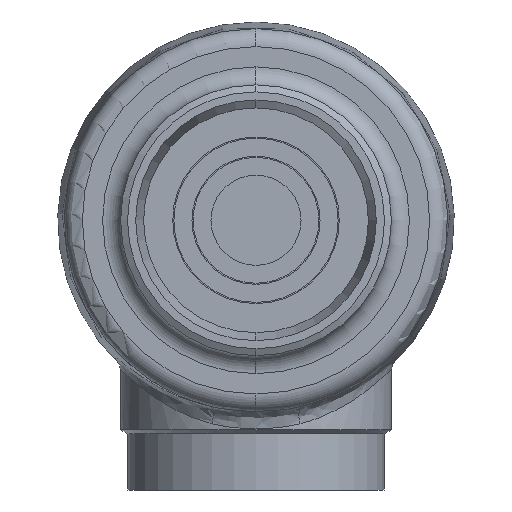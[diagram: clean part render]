
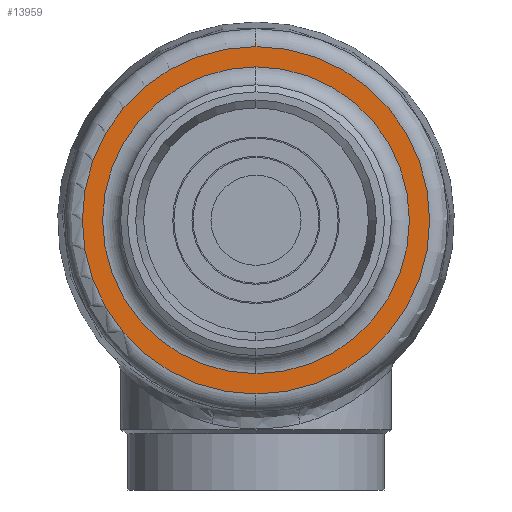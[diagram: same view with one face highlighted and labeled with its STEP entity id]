
A CAD part, front view. The second image highlights one B-rep face of the part: STEP entity #13959.
In plain terms, the highlighted planar face has unit normal (0, -1, 0).
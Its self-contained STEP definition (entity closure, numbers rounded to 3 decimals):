
#16643 = EDGE_LOOP ( 'NONE', ( #3357, #4534 ) ) ;
#17709 = VERTEX_POINT ( 'NONE', #6746 ) ;
#1481 = ORIENTED_EDGE ( 'NONE', *, *, #4165, .T. ) ;
#2569 = VERTEX_POINT ( 'NONE', #13431 ) ;
#3357 = ORIENTED_EDGE ( 'NONE', *, *, #10344, .T. ) ;
#4165 = EDGE_CURVE ( 'NONE', #10117, #2569, #6292, .T. ) ;
#4534 = ORIENTED_EDGE ( 'NONE', *, *, #5207, .T. ) ;
#5207 = EDGE_CURVE ( 'NONE', #17709, #10143, #7381, .T. ) ;
#6292 = CIRCLE ( 'NONE', #6293, 77.274 ) ;
#6293 = AXIS2_PLACEMENT_3D ( 'NONE', #6294, #6295, #6296 ) ;
#6294 = CARTESIAN_POINT ( 'NONE',  ( 0., -145., 0. ) ) ;
#6295 = DIRECTION ( 'NONE',  ( 0., -1., 0. ) ) ;
#6296 = DIRECTION ( 'NONE',  ( 0., 0., -1. ) ) ;
#6746 = CARTESIAN_POINT ( 'NONE',  ( 0., -145., 68.25 ) ) ;
#7079 = ORIENTED_EDGE ( 'NONE', *, *, #16249, .T. ) ;
#7381 = CIRCLE ( 'NONE', #7382, 68.25 ) ;
#7382 = AXIS2_PLACEMENT_3D ( 'NONE', #7384, #7385, #7386 ) ;
#7384 = CARTESIAN_POINT ( 'NONE',  ( 0., -145., 0. ) ) ;
#7385 = DIRECTION ( 'NONE',  ( 0., 1., 0. ) ) ;
#7386 = DIRECTION ( 'NONE',  ( 0., 0., -1. ) ) ;
#7423 = FACE_BOUND ( 'NONE', #16643, .T. ) ;
#7424 = FACE_OUTER_BOUND ( 'NONE', #16098, .T. ) ;
#7425 = PLANE ( 'NONE',  #7426 ) ;
#7426 = AXIS2_PLACEMENT_3D ( 'NONE', #7427, #7428, #7429 ) ;
#7427 = CARTESIAN_POINT ( 'NONE',  ( 0., -145., 0. ) ) ;
#7428 = DIRECTION ( 'NONE',  ( 0., -1., 0. ) ) ;
#7429 = DIRECTION ( 'NONE',  ( 0., 0., -1. ) ) ;
#10117 = VERTEX_POINT ( 'NONE', #12569 ) ;
#10143 = VERTEX_POINT ( 'NONE', #12707 ) ;
#10344 = EDGE_CURVE ( 'NONE', #10143, #17709, #12779, .T. ) ;
#12569 = CARTESIAN_POINT ( 'NONE',  ( 0., -145., 77.274 ) ) ;
#12707 = CARTESIAN_POINT ( 'NONE',  ( 0., -145., -68.25 ) ) ;
#12779 = CIRCLE ( 'NONE', #12780, 68.25 ) ;
#12780 = AXIS2_PLACEMENT_3D ( 'NONE', #12781, #12782, #12783 ) ;
#12781 = CARTESIAN_POINT ( 'NONE',  ( 0., -145., 0. ) ) ;
#12782 = DIRECTION ( 'NONE',  ( 0., 1., 0. ) ) ;
#12783 = DIRECTION ( 'NONE',  ( 0., 0., -1. ) ) ;
#13431 = CARTESIAN_POINT ( 'NONE',  ( 0., -145., -77.274 ) ) ;
#13959 = ADVANCED_FACE ( 'NONE', ( #7423, #7424 ), #7425, .T. ) ;
#15743 = CIRCLE ( 'NONE', #15744, 77.274 ) ;
#15744 = AXIS2_PLACEMENT_3D ( 'NONE', #15746, #15747, #15748 ) ;
#15746 = CARTESIAN_POINT ( 'NONE',  ( 0., -145., 0. ) ) ;
#15747 = DIRECTION ( 'NONE',  ( 0., -1., 0. ) ) ;
#15748 = DIRECTION ( 'NONE',  ( 0., 0., -1. ) ) ;
#16098 = EDGE_LOOP ( 'NONE', ( #7079, #1481 ) ) ;
#16249 = EDGE_CURVE ( 'NONE', #2569, #10117, #15743, .T. ) ;
